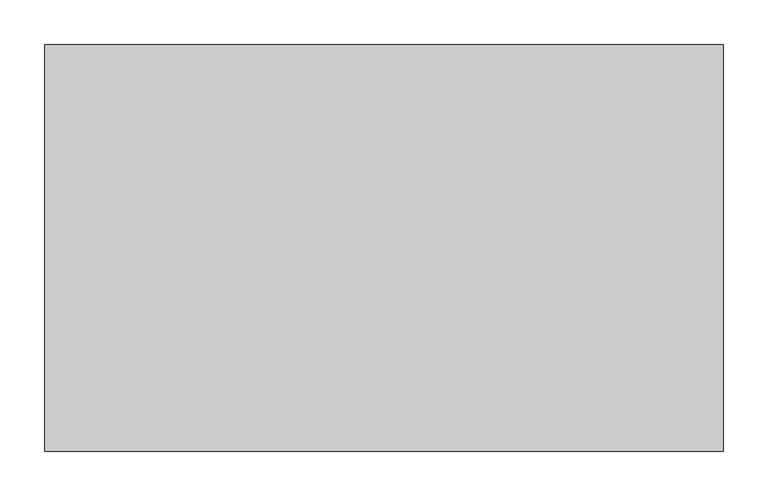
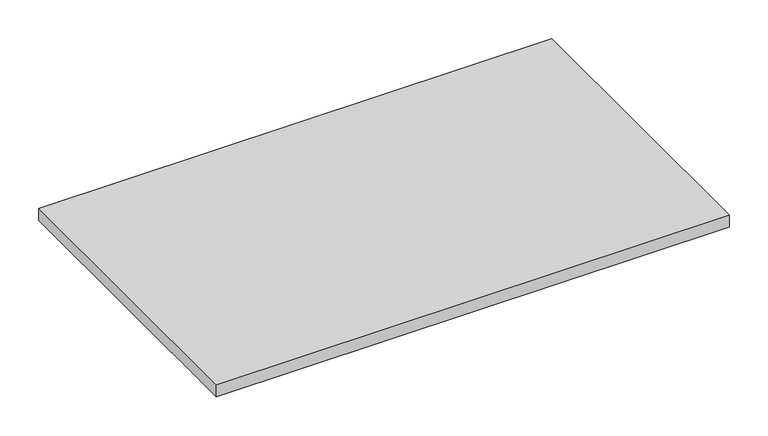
"""IFC4 building model written with IfcOpenShell, lengths in millimetres: furniture geometry, Steelcase - Universal Storage - Adjustable Steel Standard Shelf : 18D x 30W."""

from ifc_helpers import new_model, si_unit, frame, origin, place, context, project, spatial, polyline, outline, extrude, source, transform, mapped, element, save


def furniture_40bace08(model_context):
    return source(origin(), model_context, "Body", "SweptSolid", [
        extrude(outline(polyline([(762.0, 0.0), (762.0, -457.2), (0.0, -457.2), (0.0, 0.0), (762.0, 0.0)])), frame((0.0, 0.0, 285.75), z_axis=(0.0, 0.0, 1.0), x_axis=(1.0, 0.0, 0.0)), (0.0, 0.0, 1.0), 19.05),
    ])


if __name__ == "__main__":
    model = new_model("IFC4")
    model_context = context("Model", 3, world=origin())
    ifc_project = project(units=[si_unit("LENGTHUNIT", "METRE", prefix="MILLI")], contexts=[model_context])
    site = spatial("IfcSite", under=ifc_project)
    building = spatial("IfcBuilding", under=site)
    placement = place(None, origin())
    furniture_shape = furniture_40bace08(model_context)
    element("IfcFurniture", 1, ObjectType="Steelcase - Universal Storage - Adjustable Steel Standard Shelf : 18D x 30W", at=placement, inside=building, context=model_context, shape_type="MappedRepresentation", body=[
        mapped(furniture_shape, transform((0.0, 0.0, 0.0), x_axis=(1.0, 0.0, 0.0), y_axis=(0.0, 1.0, 0.0), z_axis=(0.0, 0.0, 1.0))),
    ])
    save(model, "model.ifc")
